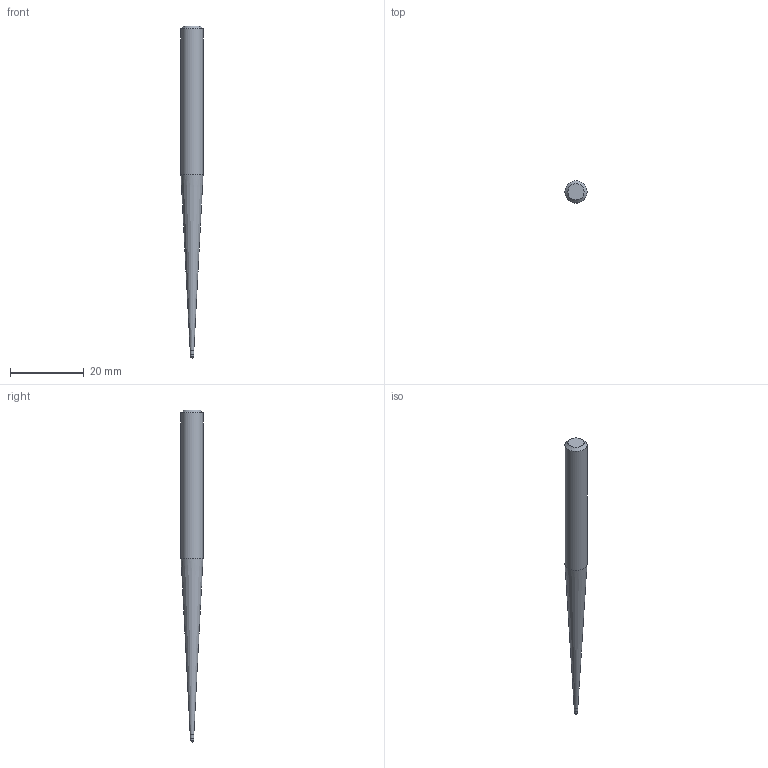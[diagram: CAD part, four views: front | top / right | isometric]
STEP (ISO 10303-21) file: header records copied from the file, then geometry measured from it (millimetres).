
FILE_DESCRIPTION((''),'2;1');
FILE_NAME('C:\Users\nsx150\AppData\Local\Temp\Mastercam 2021\SNAKH10GOD\TEMP.step','2021-10-21T13:32:26',(''),(''),'STEP Write','Mastercam 2021 ... CNC Software, Inc.','');
FILE_SCHEMA(('AUTOMOTIVE_DESIGN'));
Length unit declared in the file: millimetre
Products named in the file (1): None
Bounding box: 6 x 6 x 90 mm (x, y, z)
Volume: 1670.9 mm3; surface area: 1310.1 mm2
Topology: 2 solids, 2 shells, 9 faces, 14 edges, 8 vertices
Faces by surface type: plane 3, cylinder 3, cone 2, sphere 1
Full cylindrical faces by diameter (mm): 0.985 x1, 1 x1, 6 x1
Entity records: 211 total; most frequent: DIRECTION 36, CARTESIAN_POINT 25, AXIS2_PLACEMENT_3D 18, ORIENTED_EDGE 14, EDGE_LOOP 14, STYLED_ITEM 12, ADVANCED_FACE 9, FACE_BOUND 8
